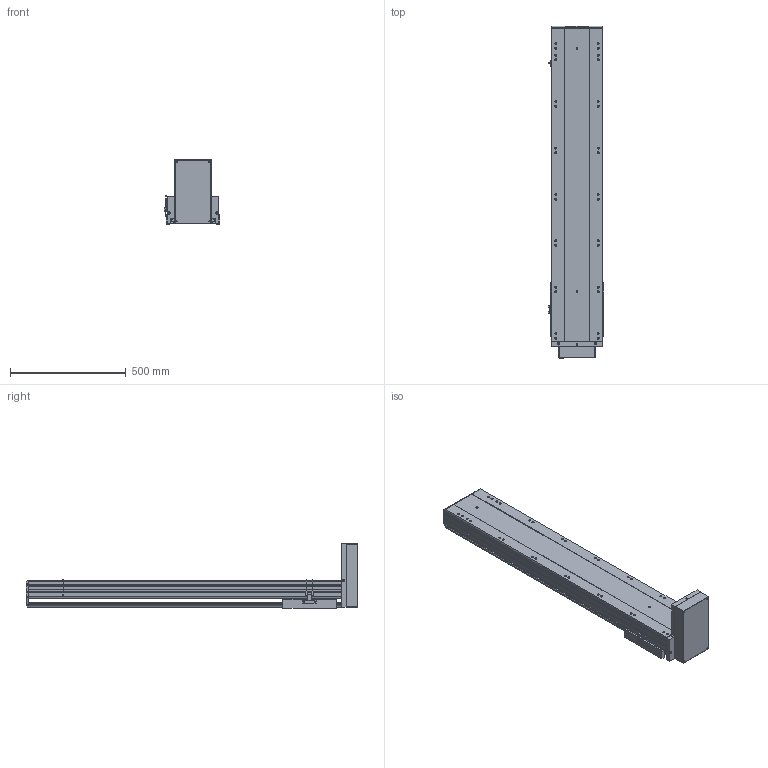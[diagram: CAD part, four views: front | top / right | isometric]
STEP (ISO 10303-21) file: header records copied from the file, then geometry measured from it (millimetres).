
FILE_DESCRIPTION (( 'STEP AP203' ), '1' );
FILE_NAME ('BTH22-L05-1050-BM-PCD145-M6-95.STEP', '2022-05-08T08:16:51', ( 'CXY' ), ( 'BT' ), 'SwSTEP 2.0', 'SolidWorks 2016', '' );
FILE_SCHEMA (( 'CONFIG_CONTROL_DESIGN' ));
Length unit declared in the file: millimetre
Products named in the file (7): BTH22-BM-06-M100; BTH22-BM-菁釱; H130-PCD145; BTH22-L05-1050-BM-PCD145-M6-95; BTH22-BM-04; BTH22-BM-01; BTH22-BM-HZ
Assembly tree (8 placements, depth 2):
  BTH22-L05-1050-BM-PCD145-M6-95
    BTH22-BM-菁釱
    BTH22-BM-01
    BTH22-BM-04  x3
    BTH22-BM-HZ
    BTH22-BM-06-M100
    H130-PCD145
Bounding box: 238.7 x 1431 x 279 mm (x, y, z)
Volume: 17613578.9 mm3; surface area: 2365755.3 mm2
Topology: 10 solids, 10 shells, 1098 faces, 3081 edges, 2007 vertices
Faces by surface type: plane 555, cylinder 427, bspline 74, cone 42
Entity records: 118060 total; most frequent: CARTESIAN_POINT 53360, ORIENTED_EDGE 13797, DIRECTION 12212, EDGE_CURVE 7404, VERTEX_POINT 4820, AXIS2_PLACEMENT_3D 4545, VECTOR 3122, LINE 3122
